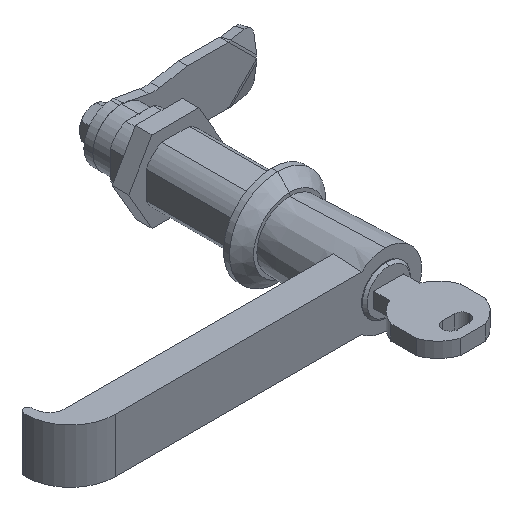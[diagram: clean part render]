
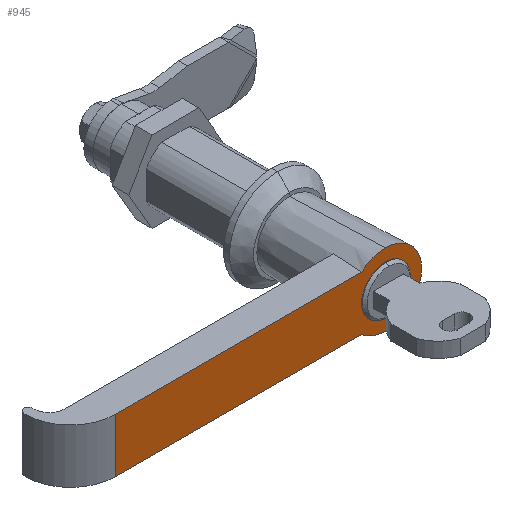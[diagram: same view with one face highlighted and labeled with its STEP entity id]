
A CAD part, isometric view. The second image highlights one B-rep face of the part: STEP entity #945.
In plain terms, the highlighted planar face has unit normal (0, -1, 0).
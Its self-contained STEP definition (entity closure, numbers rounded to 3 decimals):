
#69 = DIRECTION ( 'NONE',  ( 0., 1., 0. ) ) ;
#94 = LINE ( 'NONE', #3045, #3905 ) ;
#166 = ORIENTED_EDGE ( 'NONE', *, *, #801, .T. ) ;
#185 = EDGE_CURVE ( 'NONE', #310, #2352, #1917, .T. ) ;
#310 = VERTEX_POINT ( 'NONE', #1279 ) ;
#405 = CARTESIAN_POINT ( 'NONE',  ( -5.953, -38.237, 12.478 ) ) ;
#412 = CIRCLE ( 'NONE', #1268, 12. ) ;
#454 = CARTESIAN_POINT ( 'NONE',  ( -13.89, -38.237, 3.478 ) ) ;
#469 = CARTESIAN_POINT ( 'NONE',  ( -5.953, -38.237, 4.478 ) ) ;
#492 = VERTEX_POINT ( 'NONE', #932 ) ;
#500 = VECTOR ( 'NONE', #3340, 1000. ) ;
#555 = AXIS2_PLACEMENT_3D ( 'NONE', #1972, #4537, #877 ) ;
#614 = EDGE_CURVE ( 'NONE', #1350, #2091, #1340, .T. ) ;
#657 = CIRCLE ( 'NONE', #3601, 12. ) ;
#676 = DIRECTION ( 'NONE',  ( 0., 0., -1. ) ) ;
#801 = EDGE_CURVE ( 'NONE', #3564, #4614, #4091, .T. ) ;
#853 = DIRECTION ( 'NONE',  ( 0., 0., -1. ) ) ;
#877 = DIRECTION ( 'NONE',  ( 0., 0., 1. ) ) ;
#919 = EDGE_CURVE ( 'NONE', #3638, #1350, #3988, .T. ) ;
#932 = CARTESIAN_POINT ( 'NONE',  ( -5.953, -38.237, 0.478 ) ) ;
#945 = ADVANCED_FACE ( 'NONE', ( #4154, #3102 ), #3837, .T. ) ;
#1105 = DIRECTION ( 'NONE',  ( 0., 0., 1. ) ) ;
#1206 = DIRECTION ( 'NONE',  ( 0., -1., 0. ) ) ;
#1227 = DIRECTION ( 'NONE',  ( 0., 0., -1. ) ) ;
#1268 = AXIS2_PLACEMENT_3D ( 'NONE', #3752, #3103, #1227 ) ;
#1274 = EDGE_CURVE ( 'NONE', #492, #3638, #657, .T. ) ;
#1279 = CARTESIAN_POINT ( 'NONE',  ( -5.953, -38.237, 20.478 ) ) ;
#1340 = LINE ( 'NONE', #1733, #3362 ) ;
#1350 = VERTEX_POINT ( 'NONE', #3228 ) ;
#1375 = ORIENTED_EDGE ( 'NONE', *, *, #4571, .T. ) ;
#1403 = ORIENTED_EDGE ( 'NONE', *, *, #4655, .T. ) ;
#1408 = DIRECTION ( 'NONE',  ( 0., -1., 0. ) ) ;
#1579 = CARTESIAN_POINT ( 'NONE',  ( -5.953, -38.237, 12.478 ) ) ;
#1582 = DIRECTION ( 'NONE',  ( 0., 0., -1. ) ) ;
#1665 = ORIENTED_EDGE ( 'NONE', *, *, #614, .T. ) ;
#1733 = CARTESIAN_POINT ( 'NONE',  ( -50.953, -38.237, 21.478 ) ) ;
#1917 = CIRCLE ( 'NONE', #1921, 8. ) ;
#1921 = AXIS2_PLACEMENT_3D ( 'NONE', #405, #69, #1105 ) ;
#1972 = CARTESIAN_POINT ( 'NONE',  ( -5.953, -38.237, 12.478 ) ) ;
#2091 = VERTEX_POINT ( 'NONE', #3101 ) ;
#2344 = EDGE_CURVE ( 'NONE', #2091, #3564, #94, .T. ) ;
#2352 = VERTEX_POINT ( 'NONE', #469 ) ;
#2509 = EDGE_LOOP ( 'NONE', ( #1665, #4205, #166, #1375, #3094, #4478 ) ) ;
#2764 = CARTESIAN_POINT ( 'NONE',  ( -50.953, -38.237, 21.478 ) ) ;
#2857 = ORIENTED_EDGE ( 'NONE', *, *, #185, .T. ) ;
#2893 = CIRCLE ( 'NONE', #555, 8. ) ;
#3045 = CARTESIAN_POINT ( 'NONE',  ( -95.953, -38.237, 21.478 ) ) ;
#3094 = ORIENTED_EDGE ( 'NONE', *, *, #1274, .T. ) ;
#3101 = CARTESIAN_POINT ( 'NONE',  ( -95.953, -38.237, 21.478 ) ) ;
#3102 = FACE_OUTER_BOUND ( 'NONE', #2509, .T. ) ;
#3103 = DIRECTION ( 'NONE',  ( 0., -1., 0. ) ) ;
#3210 = DIRECTION ( 'NONE',  ( -1., 0., 0. ) ) ;
#3228 = CARTESIAN_POINT ( 'NONE',  ( -13.89, -38.237, 21.478 ) ) ;
#3340 = DIRECTION ( 'NONE',  ( 1., 0., 0. ) ) ;
#3362 = VECTOR ( 'NONE', #3210, 1000. ) ;
#3564 = VERTEX_POINT ( 'NONE', #3899 ) ;
#3601 = AXIS2_PLACEMENT_3D ( 'NONE', #3729, #1206, #1582 ) ;
#3638 = VERTEX_POINT ( 'NONE', #4266 ) ;
#3693 = EDGE_LOOP ( 'NONE', ( #2857, #1403 ) ) ;
#3729 = CARTESIAN_POINT ( 'NONE',  ( -5.953, -38.237, 12.478 ) ) ;
#3752 = CARTESIAN_POINT ( 'NONE',  ( -5.953, -38.237, 12.478 ) ) ;
#3795 = DIRECTION ( 'NONE',  ( 0., 0., -1. ) ) ;
#3837 = PLANE ( 'NONE',  #4284 ) ;
#3899 = CARTESIAN_POINT ( 'NONE',  ( -95.953, -38.237, 3.478 ) ) ;
#3905 = VECTOR ( 'NONE', #3795, 1000. ) ;
#3988 = CIRCLE ( 'NONE', #4674, 12. ) ;
#4091 = LINE ( 'NONE', #4418, #500 ) ;
#4154 = FACE_BOUND ( 'NONE', #3693, .T. ) ;
#4205 = ORIENTED_EDGE ( 'NONE', *, *, #2344, .T. ) ;
#4234 = DIRECTION ( 'NONE',  ( 0., -1., 0. ) ) ;
#4266 = CARTESIAN_POINT ( 'NONE',  ( -5.953, -38.237, 24.478 ) ) ;
#4284 = AXIS2_PLACEMENT_3D ( 'NONE', #2764, #1408, #676 ) ;
#4418 = CARTESIAN_POINT ( 'NONE',  ( -50.953, -38.237, 3.478 ) ) ;
#4478 = ORIENTED_EDGE ( 'NONE', *, *, #919, .T. ) ;
#4537 = DIRECTION ( 'NONE',  ( 0., 1., 0. ) ) ;
#4571 = EDGE_CURVE ( 'NONE', #4614, #492, #412, .T. ) ;
#4614 = VERTEX_POINT ( 'NONE', #454 ) ;
#4655 = EDGE_CURVE ( 'NONE', #2352, #310, #2893, .T. ) ;
#4674 = AXIS2_PLACEMENT_3D ( 'NONE', #1579, #4234, #853 ) ;
